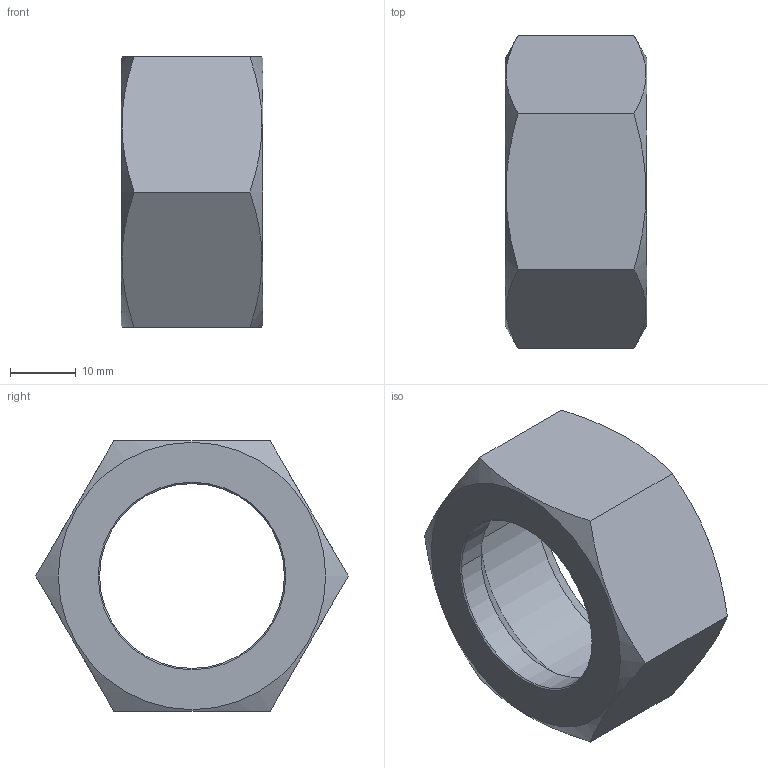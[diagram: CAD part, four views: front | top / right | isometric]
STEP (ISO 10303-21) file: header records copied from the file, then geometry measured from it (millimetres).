
FILE_DESCRIPTION((''),'2;1');
FILE_NAME('100211.stp','2006-03-06T15:11:10',('Dario Falcomer'),('CAST S.p.A.'),'AutoCAD STEP 2000i','AutoCAD 2000i',', , ');
FILE_SCHEMA(('CONFIG_CONTROL_DESIGN'));
Length unit declared in the file: millimetre
Products named in the file (2): 100211.0; CHIAVE_DADI#0
Assembly tree (1 placements, depth 2):
  100211.0
    CHIAVE_DADI#0
Bounding box: 21.5 x 47.34 x 41 mm (x, y, z)
Volume: 13142.5 mm3; surface area: 6479.4 mm2
Topology: 1 solids, 1 shells, 22 faces, 52 edges, 32 vertices
Faces by surface type: cone 10, plane 8, cylinder 4
Entity records: 725 total; most frequent: CARTESIAN_POINT 140, ORIENTED_EDGE 104, DIRECTION 100, EDGE_CURVE 52, AXIS2_PLACEMENT_3D 40, VERTEX_POINT 32, EDGE_LOOP 24, FACE_OUTER_BOUND 22
